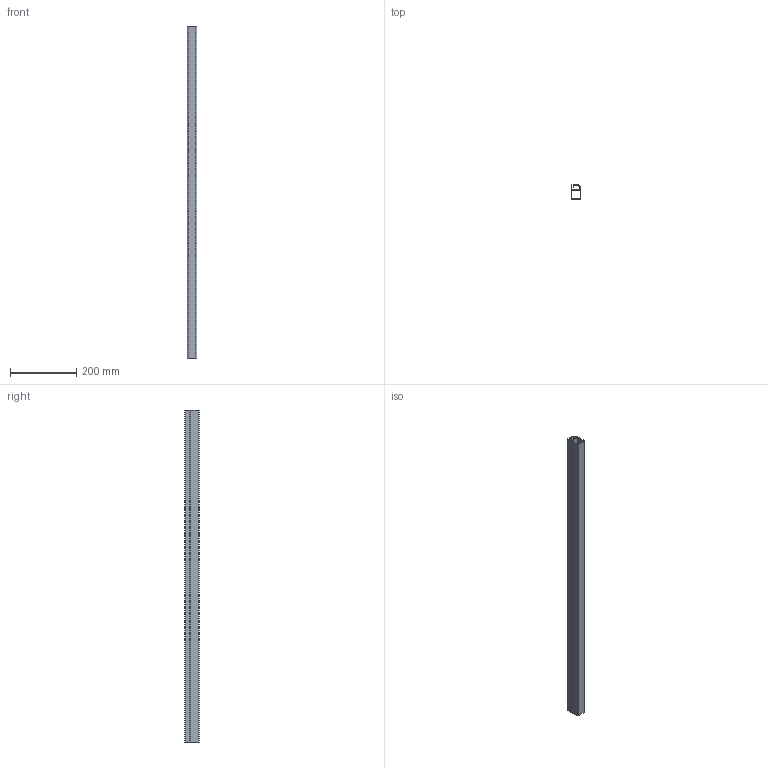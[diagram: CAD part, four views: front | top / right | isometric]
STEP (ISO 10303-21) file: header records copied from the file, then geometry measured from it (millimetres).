
FILE_DESCRIPTION (( 'STEP AP214' ), '1' );
FILE_NAME ('A40806.step', '2024-12-03T16:13:13', ( '' ), ( '' ), 'SwSTEP 2.0', 'SolidWorks 2023', '' );
FILE_SCHEMA (( 'AUTOMOTIVE_DESIGN' ));
Length unit declared in the file: millimetre
Products named in the file (1): A40806
Bounding box: 30 x 45 x 1000 mm (x, y, z)
Volume: 317536.5 mm3; surface area: 319431.3 mm2
Topology: 1 solids, 1 shells, 40 faces, 114 edges, 76 vertices
Faces by surface type: plane 21, cylinder 19
Entity records: 1343 total; most frequent: DIRECTION 234, CARTESIAN_POINT 231, ORIENTED_EDGE 228, EDGE_CURVE 114, AXIS2_PLACEMENT_3D 79, VECTOR 76, LINE 76, VERTEX_POINT 76
